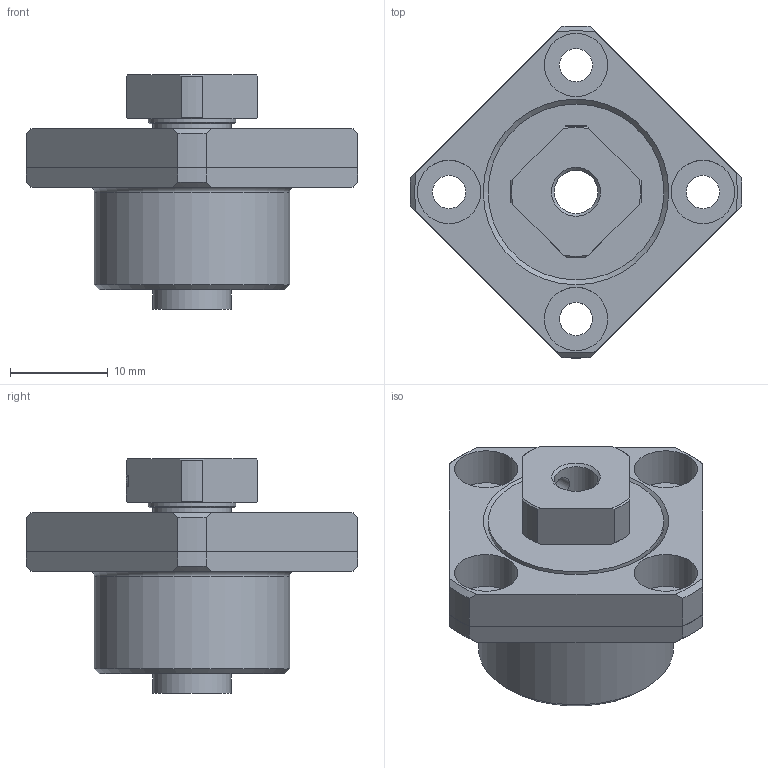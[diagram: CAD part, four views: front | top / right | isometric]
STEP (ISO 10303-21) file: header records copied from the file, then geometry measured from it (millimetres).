
FILE_DESCRIPTION(/* description */ ('STEP AP214'),/* implementation_level */ '2;1');
FILE_NAME(/* name */ 'FK5______CAD_NO_Yes-FS',/* time_stamp */ '2026-09-17T13:18:20+02:00',/* author */ ('License CC BY-ND 4.0'),/* organization */ ('CADENAS'),/* preprocessor_version */ 'ST-DEVELOPER v20',/* originating_system */ 'PARTsolutions',/* authorisation */ ' ');
FILE_SCHEMA (('AUTOMOTIVE_DESIGN {1 0 10303 214 3 1 1}'));
Length unit declared in the file: millimetre
Products named in the file (4): FK5______CAD_NO_Yes-FS; FK 5-FS-1; FK 5collar; RN 5
Assembly tree (4 placements, depth 2):
  FK5______CAD_NO_Yes-FS
    FK 5-FS-1
    FK 5collar  x2
    RN 5
Bounding box: 33.99 x 33.99 x 24 mm (x, y, z)
Volume: 6903.6 mm3; surface area: 4318.1 mm2
Topology: 4 solids, 4 shells, 107 faces, 250 edges, 164 vertices
Faces by surface type: plane 44, cylinder 39, cone 23, torus 1
Full cylindrical faces by diameter (mm): 2.113 x1, 2.6 x1, 3.4 x4, 4.459 x1, 5 x3, 6.5 x4, 8 x4, 9 x1, 18 x2, 20 x1
Entity records: 3012 total; most frequent: CARTESIAN_POINT 594, DIRECTION 490, ORIENTED_EDGE 428, EDGE_CURVE 214, AXIS2_PLACEMENT_3D 203, VERTEX_POINT 158, EDGE_LOOP 158, FACE_BOUND 158
